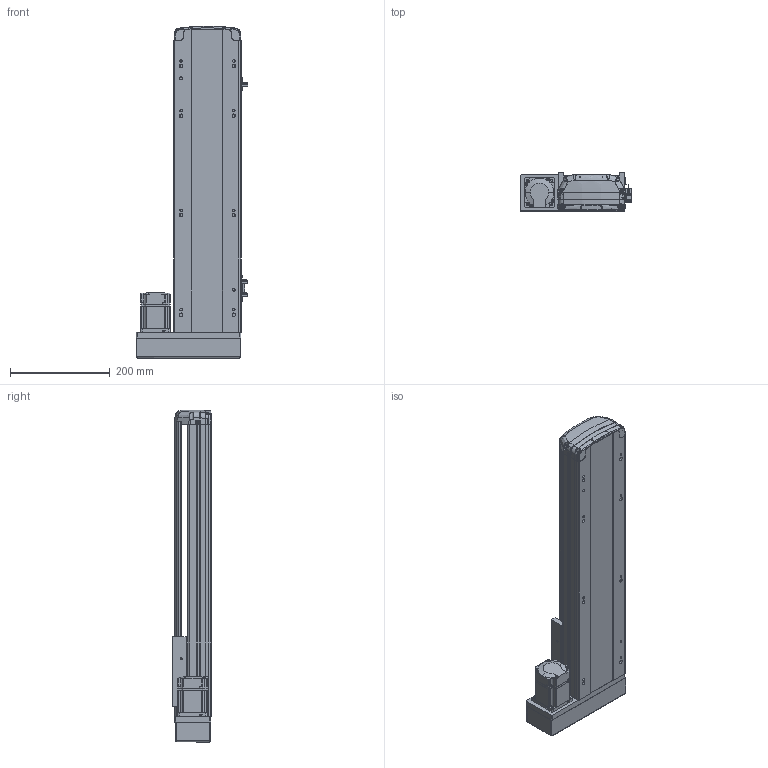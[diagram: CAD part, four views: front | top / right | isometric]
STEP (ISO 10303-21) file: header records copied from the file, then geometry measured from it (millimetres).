
FILE_DESCRIPTION (( 'STEP AP214' ), '1' );
FILE_NAME ('RTH14-XX-400-L-M20-C4.STEP', '2025-10-25T02:37:18', ( 'Microsoft' ), ( 'Microsoft' ), 'SwSTEP 2.0', 'SolidWorks 2018', '' );
FILE_SCHEMA (( 'AUTOMOTIVE_DESIGN' ));
Length unit declared in the file: millimetre
Products named in the file (10): RTH14-XX-400-L-M20-C4; N_MSMD022P1AA_200W^RTH14-XX-XX-L-M20-C4; N_RTH14-GY-001P^RTH14-XX-XX-L-M20-C4; N_RTH13-L-012感应片（外置）^RTH14-XX-XX-L-M20-C4; N_RTH14-M-007P奻裔^RTH14-XX-XX-L-M20-C4; N_OMRON EE-SX672 传感器^RTH14-XX-XX-L-M20-C4; N_RTH13-L-018 裔赽^RTH14-XX-XX-L-M20-C4; N_RTH13-L-008-P20 萇儂啣酘蛌殏^RTH14-XX-XX-L-M20-C4; N_RTH14-M-011P菁釱^RTH14-XX-XX-L-M20-C4; N_RTH14-R-004-SFSR16賑釱^RTH14-XX-XX-L-M20-C4
Assembly tree (11 placements, depth 2):
  RTH14-XX-400-L-M20-C4
    N_RTH14-M-011P菁釱^RTH14-XX-XX-L-M20-C4
    N_RTH14-M-007P奻裔^RTH14-XX-XX-L-M20-C4
    N_MSMD022P1AA_200W^RTH14-XX-XX-L-M20-C4
    N_RTH13-L-008-P20 萇儂啣酘蛌殏^RTH14-XX-XX-L-M20-C4
    N_RTH13-L-018 裔赽^RTH14-XX-XX-L-M20-C4
    N_RTH13-L-012感应片（外置）^RTH14-XX-XX-L-M20-C4
    N_OMRON EE-SX672 传感器^RTH14-XX-XX-L-M20-C4  x3
    N_RTH14-GY-001P^RTH14-XX-XX-L-M20-C4
    N_RTH14-R-004-SFSR16賑釱^RTH14-XX-XX-L-M20-C4
Bounding box: 224 x 78.03 x 667.37 mm (x, y, z)
Volume: 3203586.2 mm3; surface area: 758730 mm2
Topology: 11 solids, 11 shells, 1854 faces, 5177 edges, 3390 vertices
Faces by surface type: plane 987, cylinder 473, bspline 345, cone 45, torus 4
Entity records: 56431 total; most frequent: CARTESIAN_POINT 22863, ORIENTED_EDGE 7422, DIRECTION 5924, EDGE_CURVE 3711, VERTEX_POINT 2426, VECTOR 2140, LINE 2140, AXIS2_PLACEMENT_3D 1892
